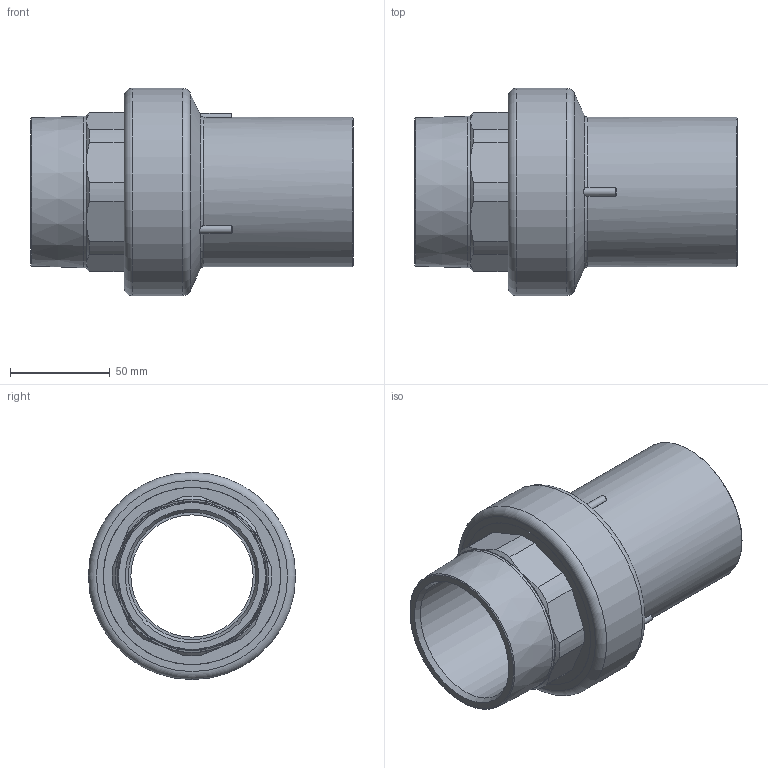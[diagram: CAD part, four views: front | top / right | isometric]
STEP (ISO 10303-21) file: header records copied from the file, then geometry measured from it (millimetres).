
FILE_DESCRIPTION(/* description */ ('Unknown'),/* implementation_level */ '2;1');
FILE_NAME(/* name */ 'RTOMP075C',/* time_stamp */ '2021-03-01T17:36:55+01:00',/* author */ ('Unknown'),/* organization */ ('Unknown'),/* preprocessor_version */ 'ST-DEVELOPER v16.7',/* originating_system */ 'Solid Edge',/* authorisation */ 'Unknown');
FILE_SCHEMA (('AUTOMOTIVE_DESIGN {1 0 10303 214 3 1 1}'));
Length unit declared in the file: millimetre
Products named in the file (3): RTOMP075C; Parte PE 075; IOM075C
Assembly tree (2 placements, depth 2):
  RTOMP075C
    Parte PE 075
    IOM075C
Bounding box: 162 x 104 x 104 mm (x, y, z)
Volume: 371401.7 mm3; surface area: 117702.8 mm2
Topology: 2 solids, 2 shells, 175 faces, 424 edges, 270 vertices
Faces by surface type: plane 96, cylinder 40, bspline 15, cone 13, torus 11
Full cylindrical faces by diameter (mm): 61.4 x1, 64 x1, 67 x2, 72 x2, 75 x1, 76.3 x1, 83 x4, 83.4 x2, 89 x8, 104 x1
Entity records: 5789 total; most frequent: CARTESIAN_POINT 1206, DIRECTION 844, ORIENTED_EDGE 774, EDGE_CURVE 387, AXIS2_PLACEMENT_3D 340, VERTEX_POINT 263, EDGE_LOOP 226, FACE_BOUND 226
